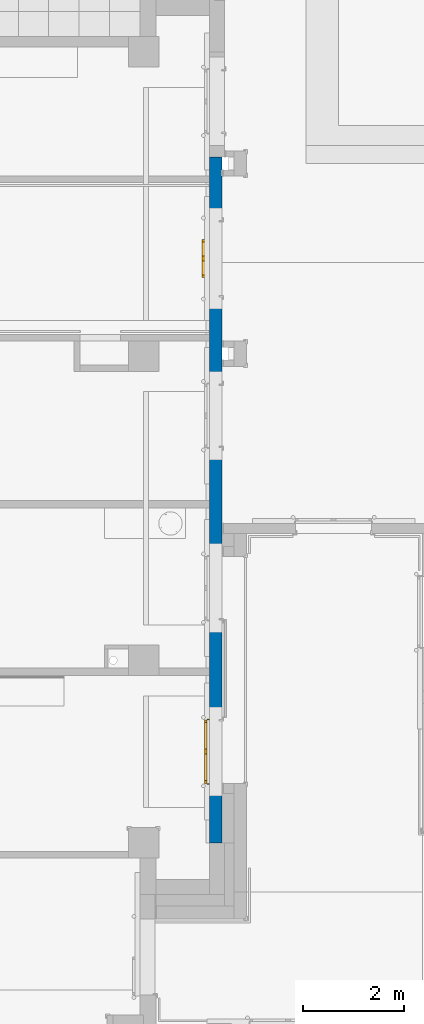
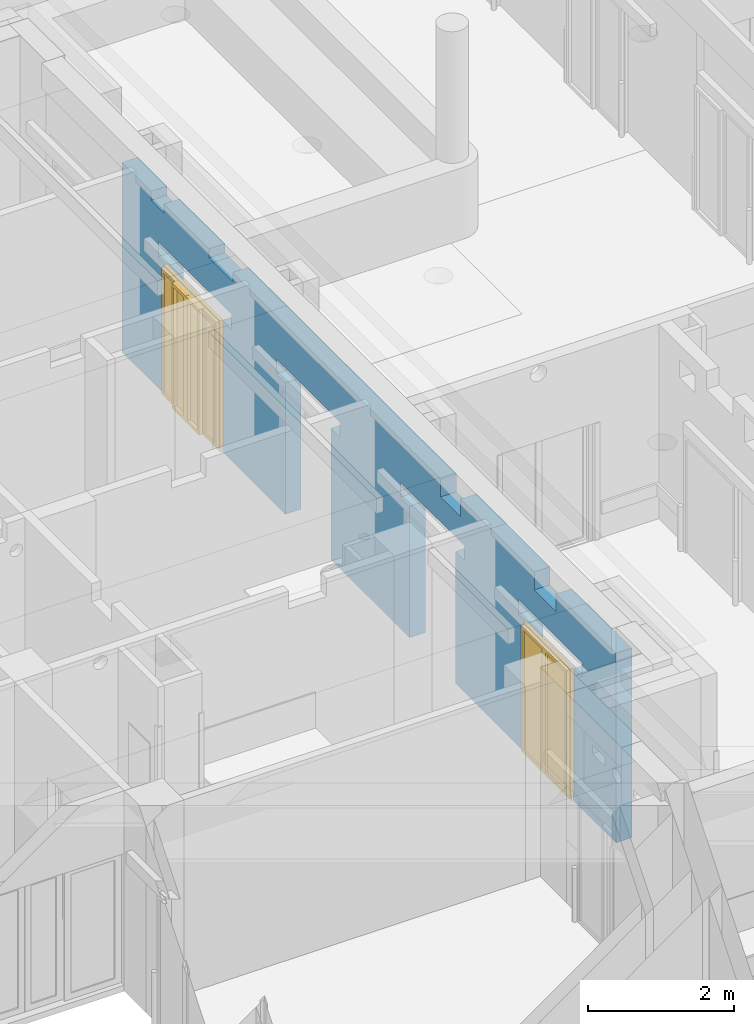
# One storey, part 87 of 140: 2 doors, 1 wall, 8 openings.
"""IFC4 building model written with IfcOpenShell, lengths in metres."""

from ifc_helpers import new_model, entity, si_unit, converted_unit, derived_unit, frame, origin, origin_with_axes, place, context, subcontext, project, spatial, polyline, outline, extrude, closed_shell, open_shell, faceted_brep, surface_model, source, transform, mapped, material, type_object, element, fill, save


model = new_model("IFC4")

# Units and contexts
model_context = context("Model", 3, precision=1e-05, world=origin())
body_context = subcontext(model_context, "Body", "Model", "MODEL_VIEW")
ifc_project = project(units=[si_unit("LENGTHUNIT", "METRE"), si_unit("AREAUNIT", "SQUARE_METRE"), si_unit("VOLUMEUNIT", "CUBIC_METRE"), si_unit("MASSUNIT", "GRAM", prefix="KILO"), converted_unit("PLANEANGLEUNIT", "DEGREE", entity("IfcPlaneAngleMeasure", 0.0174532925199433), si_unit("PLANEANGLEUNIT", "RADIAN"), dimensions=[0, 0, 0, 0, 0, 0, 0]), derived_unit("THERMALTRANSMITTANCEUNIT", [(si_unit("POWERUNIT", "WATT"), 1), (si_unit("THERMODYNAMICTEMPERATUREUNIT", "KELVIN"), -1), (si_unit("LENGTHUNIT", "METRE"), -2)]), derived_unit("VOLUMETRICFLOWRATEUNIT", [(si_unit("LENGTHUNIT", "METRE"), 3), (converted_unit("TIMEUNIT", "hour", entity("IfcTimeMeasure", 3600.0), si_unit("TIMEUNIT", "SECOND"), dimensions=[0, 0, 1, 0, 0, 0, 0]), -1), (si_unit("LENGTHUNIT", "METRE"), -1)])], contexts=[model_context])

# Site, building, storey
site_placement = place(None, origin())
site = spatial("IfcSite", under=ifc_project, at=site_placement, Name="3. ASŘ", CompositionType="ELEMENT")
building_placement = place(site_placement, origin())
building = spatial("IfcBuilding", under=site, at=building_placement, Name="Pavilon C", CompositionType="ELEMENT")
storey_placement = place(building_placement, origin())
storey = spatial("IfcBuildingStorey", under=building, at=storey_placement, Name="Půdorys 1.NP", CompositionType="ELEMENT", Elevation=0.0)

# Wall, openings, doors
ifc_material = material(Name="YTONG 250")
wall_placement = place(storey_placement, frame((51.25, 3.6, -0.1)))
wall = element("IfcWall", 1, at=wall_placement, inside=storey, material=ifc_material, Name="YTONG 250", context=body_context, shape_type="Brep", body=[
    faceted_brep([(0.25, 10.525, 2.449), (0.25, 12.525, 2.449), (0.0, 12.525, 2.449), (0.0, 10.525, 2.449), (0.0, 10.525, 2.2), (0.0, 12.525, 2.2), (0.25, 12.525, 2.2), (0.25, 10.525, 2.2), (0.25, 7.54999999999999, 2.449), (0.25, 9.29999999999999, 2.449), (0.0, 9.29999999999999, 2.449), (0.0, 7.54999999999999, 2.449), (0.0, 7.54999999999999, 2.2), (0.0, 9.29999999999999, 2.2), (0.25, 9.29999999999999, 2.2), (0.25, 7.54999999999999, 2.2), (0.25, 4.14999999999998, 2.449), (0.25, 5.89999999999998, 2.449), (0.0, 5.89999999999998, 2.449), (0.0, 4.14999999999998, 2.449), (0.0, 4.14999999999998, 2.2), (0.0, 5.89999999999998, 2.2), (0.25, 5.89999999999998, 2.2), (0.25, 4.14999999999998, 2.2), (0.25, 0.924999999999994, 2.449), (0.25, 2.67499999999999, 2.449), (0.0, 2.67499999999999, 2.449), (0.0, 0.924999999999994, 2.449), (0.0, 0.924999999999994, 2.2), (0.0, 2.67499999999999, 2.2), (0.25, 2.67499999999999, 2.2), (0.25, 0.924999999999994, 2.2), (0.25, 13.525, -2.27373675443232e-16), (0.25, -9.09494701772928e-16, -2.27373675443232e-16), (0.25, -9.09494701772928e-16, 3.17), (0.25, 13.525, 3.17), (0.0, -9.09494701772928e-16, -2.27373675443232e-16), (0.0, -9.09494701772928e-16, 3.17), (0.0, 13.525, -2.27373675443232e-16), (0.0, 13.525, 3.17)], [[[0, 1, 2, 3]], [[4, 5, 6, 7]], [[3, 4, 7, 0]], [[1, 6, 5, 2]], [[8, 9, 10, 11]], [[12, 13, 14, 15]], [[11, 12, 15, 8]], [[9, 14, 13, 10]], [[16, 17, 18, 19]], [[20, 21, 22, 23]], [[19, 20, 23, 16]], [[17, 22, 21, 18]], [[24, 25, 26, 27]], [[28, 29, 30, 31]], [[27, 28, 31, 24]], [[25, 30, 29, 26]], [[32, 33, 34, 35], [6, 1, 0, 7], [14, 9, 8, 15], [22, 17, 16, 23], [30, 25, 24, 31]], [[33, 36, 37, 34]], [[36, 38, 39, 37], [4, 3, 2, 5], [12, 11, 10, 13], [20, 19, 18, 21], [28, 27, 26, 29]], [[38, 32, 35, 39]], [[39, 35, 34, 37]], [[32, 38, 36, 33]]], orient=[[False], [False], [False], [False], [False], [False], [False], [False], [False], [False], [False], [False], [False], [False], [False], [False], [False, False, False, False, False], [False], [False, False, False, False, False], [False], [False], [False]]),
])
opening_1_placement = place(wall_placement, frame((0.25, 1.17499999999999, 0.0), z_axis=(-1.0, 0.0, 0.0), x_axis=(0.0, 0.0, 1.0)))
opening_1 = element("IfcOpeningElement", 2, at=opening_1_placement, cuts=wall, Name="Dveřní otvor", ObjectType="Opening", context=body_context, shape_type="SweptSolid", body=[
    extrude(outline(polyline([(0.0, 1.25), (2.2, 1.25), (2.2, 0.0), (0.0, 0.0), (0.0, 1.25)])), origin_with_axes(), (0.0, 0.0, 1.0), 0.25),
])
opening_2_placement = place(wall_placement, frame((0.25, 10.775, 0.0), z_axis=(-1.0, 0.0, 0.0), x_axis=(0.0, 0.0, 1.0)))
opening_2 = element("IfcOpeningElement", 3, at=opening_2_placement, cuts=wall, Name="Dveřní otvor", ObjectType="Opening", context=body_context, shape_type="SweptSolid", body=[
    extrude(outline(polyline([(0.0, 1.5), (2.2, 1.5), (2.2, 0.0), (0.0, 0.0), (0.0, 1.5)])), origin_with_axes(), (0.0, 0.0, 1.0), 0.25),
])
opening_3_placement = place(wall_placement, frame((0.25, 7.79999999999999, 0.0), z_axis=(-1.0, 0.0, 0.0), x_axis=(0.0, 0.0, 1.0)))
element("IfcOpeningElement", 4, at=opening_3_placement, cuts=wall, Name="Dveřní otvor", ObjectType="Opening", context=body_context, shape_type="SweptSolid", body=[
    extrude(outline(polyline([(0.0, 1.25), (2.2, 1.25), (2.2, 0.0), (0.0, 0.0), (0.0, 1.25)])), origin_with_axes(), (0.0, 0.0, 1.0), 0.25),
])
opening_4_placement = place(wall_placement, frame((0.25, 4.39999999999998, 0.0), z_axis=(-1.0, 0.0, 0.0), x_axis=(0.0, 0.0, 1.0)))
element("IfcOpeningElement", 5, at=opening_4_placement, cuts=wall, Name="Dveřní otvor", ObjectType="Opening", context=body_context, shape_type="SweptSolid", body=[
    extrude(outline(polyline([(0.0, 1.25), (2.2, 1.25), (2.2, 0.0), (0.0, 0.0), (0.0, 1.25)])), origin_with_axes(), (0.0, 0.0, 1.0), 0.25),
])
opening_5_placement = place(wall_placement, frame((0.25, 10.49, 3.02), z_axis=(-1.0, 0.0, 0.0), x_axis=(0.0, 0.0, 1.0)))
element("IfcOpeningElement", 6, at=opening_5_placement, cuts=wall, Name="ELE", ObjectType="Opening", context=body_context, shape_type="SweptSolid", body=[
    extrude(outline(polyline([(0.0, 0.65), (0.15, 0.65), (0.15, 0.0), (0.0, 0.0), (0.0, 0.65)])), origin_with_axes(), (0.0, 0.0, 1.0), 0.25),
])
opening_6_placement = place(wall_placement, frame((0.25, 12.375, 3.02), z_axis=(-1.0, 0.0, 0.0), x_axis=(0.0, 0.0, 1.0)))
element("IfcOpeningElement", 7, at=opening_6_placement, cuts=wall, Name="ELE", ObjectType="Opening", context=body_context, shape_type="SweptSolid", body=[
    extrude(outline(polyline([(0.0, 0.35), (0.15, 0.35), (0.15, 0.0), (0.0, 0.0), (0.0, 0.35)])), origin_with_axes(), (0.0, 0.0, 1.0), 0.25),
])
opening_7_placement = place(wall_placement, frame((0.25, 4.24999335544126, 2.87), z_axis=(-1.0, 0.0, 0.0), x_axis=(0.0, 0.0, 1.0)))
element("IfcOpeningElement", 8, at=opening_7_placement, cuts=wall, Name="VZT", ObjectType="Opening", context=body_context, shape_type="SweptSolid", body=[
    extrude(outline(polyline([(0.0, 0.549999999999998), (0.3, 0.549999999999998), (0.3, 0.0), (0.0, 0.0), (0.0, 0.549999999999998)])), origin_with_axes(), (0.0, 0.0, 1.0), 0.25),
])
opening_8_placement = place(wall_placement, frame((0.25, 1.63696848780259, 2.87), z_axis=(-1.0, 0.0, 0.0), x_axis=(0.0, 0.0, 1.0)))
element("IfcOpeningElement", 9, at=opening_8_placement, cuts=wall, Name="VZT", ObjectType="Opening", context=body_context, shape_type="SweptSolid", body=[
    extrude(outline(polyline([(0.0, 0.6), (0.3, 0.6), (0.3, 0.0), (0.0, 0.0), (0.0, 0.6)])), origin_with_axes(), (0.0, 0.0, 1.0), 0.25),
])
door_type_1 = type_object("IfcDoorType", Name="I.DH07", OperationType="NOTDEFINED", ParameterTakesPrecedence=False, PredefinedType="DOOR")
shared_shape_1 = source(origin_with_axes(), body_context, "Body", "SurfaceModel", [
    surface_model("IfcShellBasedSurfaceModel", [(0.0, 0.075, 0.0), (1.29, 0.075, 0.0), (1.29, 0.075, 0.1), (0.0, 0.075, 0.1)], [open_shell([[[0, 1, 2, 3]]], orient=[[False]])]),
    surface_model("IfcShellBasedSurfaceModel", [(0.0, 0.1, 2.22), (0.0, 0.1, 0.101), (0.02, 0.1, 0.101), (0.02, 0.1, 2.22), (0.0, 0.05, 0.101), (0.0, 0.0500000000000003, 2.22), (0.02, 0.0500000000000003, 2.22), (0.02, 0.05, 0.101)], [closed_shell([[[0, 1, 2, 3]], [[4, 5, 6, 7]], [[1, 0, 5, 4]], [[2, 1, 4, 7]], [[3, 2, 7, 6]], [[0, 3, 6, 5]]], orient=[[False], [False], [False], [False], [False], [False]])]),
    surface_model("IfcShellBasedSurfaceModel", [(1.27, 0.1, 2.22), (1.27, 0.1, 0.101), (1.29, 0.1, 0.101), (1.29, 0.1, 2.22), (1.27, 0.05, 0.101), (1.27, 0.0500000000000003, 2.22), (1.29, 0.0500000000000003, 2.22), (1.29, 0.05, 0.101)], [closed_shell([[[0, 1, 2, 3]], [[4, 5, 6, 7]], [[1, 0, 5, 4]], [[2, 1, 4, 7]], [[3, 2, 7, 6]], [[0, 3, 6, 5]]], orient=[[False], [False], [False], [False], [False], [False]])]),
    surface_model("IfcShellBasedSurfaceModel", [(0.02, 0.1, 2.22), (0.02, 0.1, 2.2), (1.27, 0.1, 2.2), (1.27, 0.1, 2.22), (0.02, 0.0500000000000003, 2.2), (0.02, 0.0500000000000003, 2.22), (1.27, 0.0500000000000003, 2.22), (1.27, 0.0500000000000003, 2.2)], [closed_shell([[[0, 1, 2, 3]], [[4, 5, 6, 7]], [[1, 0, 5, 4]], [[2, 1, 4, 7]], [[3, 2, 7, 6]], [[0, 3, 6, 5]]], orient=[[False], [False], [False], [False], [False], [False]])]),
    surface_model("IfcShellBasedSurfaceModel", [(0.02, 0.0500000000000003, 2.2), (0.02, 0.05, 0.101), (0.07, 0.05, 0.101), (0.07, 0.0500000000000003, 2.2), (0.02, 0.0, 0.101), (0.02, 2.55795384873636e-16, 2.2), (0.07, 2.55795384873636e-16, 2.2), (0.07, 0.0, 0.101)], [closed_shell([[[0, 1, 2, 3]], [[4, 5, 6, 7]], [[1, 0, 5, 4]], [[2, 1, 4, 7]], [[3, 2, 7, 6]], [[0, 3, 6, 5]]], orient=[[False], [False], [False], [False], [False], [False]])]),
    surface_model("IfcShellBasedSurfaceModel", [(0.5945, 0.0500000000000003, 2.2), (0.5945, 0.05, 0.101), (0.6445, 0.05, 0.101), (0.6445, 0.0500000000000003, 2.2), (0.5945, 0.0, 0.101), (0.5945, 2.55795384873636e-16, 2.2), (0.6445, 2.55795384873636e-16, 2.2), (0.6445, 0.0, 0.101)], [closed_shell([[[0, 1, 2, 3]], [[4, 5, 6, 7]], [[1, 0, 5, 4]], [[2, 1, 4, 7]], [[3, 2, 7, 6]], [[0, 3, 6, 5]]], orient=[[False], [False], [False], [False], [False], [False]])]),
    surface_model("IfcShellBasedSurfaceModel", [(0.07, 0.05, 0.151), (0.07, 0.05, 0.101), (0.5945, 0.05, 0.101), (0.5945, 0.05, 0.151), (0.07, 0.0, 0.101), (0.07, 7.105427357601e-18, 0.151), (0.5945, 7.105427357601e-18, 0.151), (0.5945, 0.0, 0.101)], [closed_shell([[[0, 1, 2, 3]], [[4, 5, 6, 7]], [[1, 0, 5, 4]], [[2, 1, 4, 7]], [[3, 2, 7, 6]], [[0, 3, 6, 5]]], orient=[[False], [False], [False], [False], [False], [False]])]),
    surface_model("IfcShellBasedSurfaceModel", [(0.07, 0.0500000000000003, 2.2), (0.07, 0.0500000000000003, 2.15), (0.5945, 0.0500000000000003, 2.15), (0.5945, 0.0500000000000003, 2.2), (0.07, 2.55795384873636e-16, 2.15), (0.07, 2.62900812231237e-16, 2.2), (0.5945, 2.62900812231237e-16, 2.2), (0.5945, 2.55795384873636e-16, 2.15)], [closed_shell([[[0, 1, 2, 3]], [[4, 5, 6, 7]], [[1, 0, 5, 4]], [[2, 1, 4, 7]], [[3, 2, 7, 6]], [[0, 3, 6, 5]]], orient=[[False], [False], [False], [False], [False], [False]])]),
    surface_model("IfcShellBasedSurfaceModel", [(0.6455, 0.0500000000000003, 2.2), (0.6455, 0.05, 0.101), (0.6955, 0.05, 0.101), (0.6955, 0.0500000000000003, 2.2), (0.6455, 0.0, 0.101), (0.6455, 2.55795384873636e-16, 2.2), (0.6955, 2.55795384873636e-16, 2.2), (0.6955, 0.0, 0.101)], [closed_shell([[[0, 1, 2, 3]], [[4, 5, 6, 7]], [[1, 0, 5, 4]], [[2, 1, 4, 7]], [[3, 2, 7, 6]], [[0, 3, 6, 5]]], orient=[[False], [False], [False], [False], [False], [False]])]),
    surface_model("IfcShellBasedSurfaceModel", [(1.22, 0.0500000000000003, 2.2), (1.22, 0.05, 0.101), (1.27, 0.05, 0.101), (1.27, 0.0500000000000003, 2.2), (1.22, 0.0, 0.101), (1.22, 2.55795384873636e-16, 2.2), (1.27, 2.55795384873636e-16, 2.2), (1.27, 0.0, 0.101)], [closed_shell([[[0, 1, 2, 3]], [[4, 5, 6, 7]], [[1, 0, 5, 4]], [[2, 1, 4, 7]], [[3, 2, 7, 6]], [[0, 3, 6, 5]]], orient=[[False], [False], [False], [False], [False], [False]])]),
    surface_model("IfcShellBasedSurfaceModel", [(0.6955, 0.05, 0.151), (0.6955, 0.05, 0.101), (1.22, 0.05, 0.101), (1.22, 0.05, 0.151), (0.6955, 0.0, 0.101), (0.6955, 7.105427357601e-18, 0.151), (1.22, 7.105427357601e-18, 0.151), (1.22, 0.0, 0.101)], [closed_shell([[[0, 1, 2, 3]], [[4, 5, 6, 7]], [[1, 0, 5, 4]], [[2, 1, 4, 7]], [[3, 2, 7, 6]], [[0, 3, 6, 5]]], orient=[[False], [False], [False], [False], [False], [False]])]),
    surface_model("IfcShellBasedSurfaceModel", [(0.6955, 0.0500000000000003, 2.2), (0.6955, 0.0500000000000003, 2.15), (1.22, 0.0500000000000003, 2.15), (1.22, 0.0500000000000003, 2.2), (0.6955, 2.55795384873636e-16, 2.15), (0.6955, 2.62900812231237e-16, 2.2), (1.22, 2.62900812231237e-16, 2.2), (1.22, 2.55795384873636e-16, 2.15)], [closed_shell([[[0, 1, 2, 3]], [[4, 5, 6, 7]], [[1, 0, 5, 4]], [[2, 1, 4, 7]], [[3, 2, 7, 6]], [[0, 3, 6, 5]]], orient=[[False], [False], [False], [False], [False], [False]])]),
    surface_model("IfcShellBasedSurfaceModel", [(0.07, 0.025, 0.151), (0.5945, 0.025, 0.151), (0.5945, 0.0250000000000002, 2.15), (0.07, 0.0250000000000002, 2.15)], [open_shell([[[0, 1, 2, 3]]], orient=[[False]])]),
    surface_model("IfcShellBasedSurfaceModel", [(0.6955, 0.025, 0.151), (1.22, 0.025, 0.151), (1.22, 0.0250000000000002, 2.15), (0.6955, 0.0250000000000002, 2.15)], [open_shell([[[0, 1, 2, 3]]], orient=[[False]])]),
])
door_1_placement = place(opening_1_placement, frame((0.0, -0.0200000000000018, 0.350000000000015), z_axis=(1.0, 0.0, 0.0), x_axis=(0.0, 1.0, -2.44929359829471e-16)))
door_1 = element("IfcDoor", 10, at=door_1_placement, inside=storey, type_object=door_type_1, Name="I.DH07", OverallHeight=2.24, OverallWidth=1.33, context=body_context, shape_type="MappedRepresentation", body=[
    mapped(shared_shape_1, transform((0.0, 0.0, 0.0), x_axis=(1.0, 0.0, 0.0), y_axis=(0.0, -1.0, 0.0), z_axis=(0.0, 0.0, 1.0), scale=1.0)),
])
fill(opening_1, door_1)
door_type_2 = type_object("IfcDoorType", Name="I.DH10", OperationType="NOTDEFINED", ParameterTakesPrecedence=False, PredefinedType="DOOR")
shared_shape_2 = source(origin_with_axes(), body_context, "Body", "SurfaceModel", [
    surface_model("IfcShellBasedSurfaceModel", [(0.0, 0.025, 0.0), (1.54, 0.025, 0.0), (1.54, 0.025, 0.1), (0.0, 0.025, 0.1)], [open_shell([[[0, 1, 2, 3]]], orient=[[False]])]),
    surface_model("IfcShellBasedSurfaceModel", [(0.0, 0.0500000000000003, 2.22), (0.0, 0.05, 0.101), (0.02, 0.05, 0.101), (0.02, 0.0500000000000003, 2.22), (0.0, 0.0, 0.101), (0.0, 2.62900812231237e-16, 2.22), (0.02, 2.62900812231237e-16, 2.22), (0.02, 0.0, 0.101)], [closed_shell([[[0, 1, 2, 3]], [[4, 5, 6, 7]], [[1, 0, 5, 4]], [[2, 1, 4, 7]], [[3, 2, 7, 6]], [[0, 3, 6, 5]]], orient=[[False], [False], [False], [False], [False], [False]])]),
    surface_model("IfcShellBasedSurfaceModel", [(1.52, 0.0500000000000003, 2.22), (1.52, 0.05, 0.101), (1.54, 0.05, 0.101), (1.54, 0.0500000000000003, 2.22), (1.52, 0.0, 0.101), (1.52, 2.62900812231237e-16, 2.22), (1.54, 2.62900812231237e-16, 2.22), (1.54, 0.0, 0.101)], [closed_shell([[[0, 1, 2, 3]], [[4, 5, 6, 7]], [[1, 0, 5, 4]], [[2, 1, 4, 7]], [[3, 2, 7, 6]], [[0, 3, 6, 5]]], orient=[[False], [False], [False], [False], [False], [False]])]),
    surface_model("IfcShellBasedSurfaceModel", [(0.02, 0.0500000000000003, 2.22), (0.02, 0.0500000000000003, 2.2), (1.52, 0.0500000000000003, 2.2), (1.52, 0.0500000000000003, 2.22), (0.02, 2.55795384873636e-16, 2.2), (0.02, 2.55795384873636e-16, 2.22), (1.52, 2.55795384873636e-16, 2.22), (1.52, 2.55795384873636e-16, 2.2)], [closed_shell([[[0, 1, 2, 3]], [[4, 5, 6, 7]], [[1, 0, 5, 4]], [[2, 1, 4, 7]], [[3, 2, 7, 6]], [[0, 3, 6, 5]]], orient=[[False], [False], [False], [False], [False], [False]])]),
    surface_model("IfcShellBasedSurfaceModel", [(0.7705, 0.15, 2.2), (0.7705, 0.15, 0.101), (0.8205, 0.15, 0.101), (0.8205, 0.15, 2.2), (0.7705, 0.05, 0.101), (0.7705, 0.0500000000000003, 2.2), (0.8205, 0.0500000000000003, 2.2), (0.8205, 0.05, 0.101)], [closed_shell([[[0, 1, 2, 3]], [[4, 5, 6, 7]], [[1, 0, 5, 4]], [[2, 1, 4, 7]], [[3, 2, 7, 6]], [[0, 3, 6, 5]]], orient=[[False], [False], [False], [False], [False], [False]])]),
    surface_model("IfcShellBasedSurfaceModel", [(1.09475, 0.15, 2.2), (1.09475, 0.15, 0.101), (1.14475, 0.15, 0.101), (1.14475, 0.15, 2.2), (1.09475, 0.05, 0.101), (1.09475, 0.0500000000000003, 2.2), (1.14475, 0.0500000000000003, 2.2), (1.14475, 0.05, 0.101)], [closed_shell([[[0, 1, 2, 3]], [[4, 5, 6, 7]], [[1, 0, 5, 4]], [[2, 1, 4, 7]], [[3, 2, 7, 6]], [[0, 3, 6, 5]]], orient=[[False], [False], [False], [False], [False], [False]])]),
    surface_model("IfcShellBasedSurfaceModel", [(0.8205, 0.15, 0.151), (0.8205, 0.15, 0.101), (1.09475, 0.15, 0.101), (1.09475, 0.15, 0.151), (0.8205, 0.05, 0.101), (0.8205, 0.05, 0.151), (1.09475, 0.05, 0.151), (1.09475, 0.05, 0.101)], [closed_shell([[[0, 1, 2, 3]], [[4, 5, 6, 7]], [[1, 0, 5, 4]], [[2, 1, 4, 7]], [[3, 2, 7, 6]], [[0, 3, 6, 5]]], orient=[[False], [False], [False], [False], [False], [False]])]),
    surface_model("IfcShellBasedSurfaceModel", [(0.8205, 0.15, 2.2), (0.8205, 0.15, 2.15), (1.09475, 0.15, 2.15), (1.09475, 0.15, 2.2), (0.8205, 0.0500000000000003, 2.15), (0.8205, 0.0500000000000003, 2.2), (1.09475, 0.0500000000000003, 2.2), (1.09475, 0.0500000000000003, 2.15)], [closed_shell([[[0, 1, 2, 3]], [[4, 5, 6, 7]], [[1, 0, 5, 4]], [[2, 1, 4, 7]], [[3, 2, 7, 6]], [[0, 3, 6, 5]]], orient=[[False], [False], [False], [False], [False], [False]])]),
    surface_model("IfcShellBasedSurfaceModel", [(1.14575, 0.1, 2.2), (1.14575, 0.1, 0.101), (1.19575, 0.1, 0.101), (1.19575, 0.1, 2.2), (1.14575, 0.05, 0.101), (1.14575, 0.0500000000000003, 2.2), (1.19575, 0.0500000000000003, 2.2), (1.19575, 0.05, 0.101)], [closed_shell([[[0, 1, 2, 3]], [[4, 5, 6, 7]], [[1, 0, 5, 4]], [[2, 1, 4, 7]], [[3, 2, 7, 6]], [[0, 3, 6, 5]]], orient=[[False], [False], [False], [False], [False], [False]])]),
    surface_model("IfcShellBasedSurfaceModel", [(1.47, 0.1, 2.2), (1.47, 0.1, 0.101), (1.52, 0.1, 0.101), (1.52, 0.1, 2.2), (1.47, 0.05, 0.101), (1.47, 0.0500000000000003, 2.2), (1.52, 0.0500000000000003, 2.2), (1.52, 0.05, 0.101)], [closed_shell([[[0, 1, 2, 3]], [[4, 5, 6, 7]], [[1, 0, 5, 4]], [[2, 1, 4, 7]], [[3, 2, 7, 6]], [[0, 3, 6, 5]]], orient=[[False], [False], [False], [False], [False], [False]])]),
    surface_model("IfcShellBasedSurfaceModel", [(1.19575, 0.1, 0.151), (1.19575, 0.1, 0.101), (1.47, 0.1, 0.101), (1.47, 0.1, 0.151), (1.19575, 0.05, 0.101), (1.19575, 0.05, 0.151), (1.47, 0.05, 0.151), (1.47, 0.05, 0.101)], [closed_shell([[[0, 1, 2, 3]], [[4, 5, 6, 7]], [[1, 0, 5, 4]], [[2, 1, 4, 7]], [[3, 2, 7, 6]], [[0, 3, 6, 5]]], orient=[[False], [False], [False], [False], [False], [False]])]),
    surface_model("IfcShellBasedSurfaceModel", [(1.19575, 0.1, 2.2), (1.19575, 0.1, 2.15), (1.47, 0.1, 2.15), (1.47, 0.1, 2.2), (1.19575, 0.0500000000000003, 2.15), (1.19575, 0.0500000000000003, 2.2), (1.47, 0.0500000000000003, 2.2), (1.47, 0.0500000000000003, 2.15)], [closed_shell([[[0, 1, 2, 3]], [[4, 5, 6, 7]], [[1, 0, 5, 4]], [[2, 1, 4, 7]], [[3, 2, 7, 6]], [[0, 3, 6, 5]]], orient=[[False], [False], [False], [False], [False], [False]])]),
    surface_model("IfcShellBasedSurfaceModel", [(0.02, 0.1, 2.2), (0.02, 0.1, 0.101), (0.07, 0.1, 0.101), (0.07, 0.1, 2.2), (0.02, 0.05, 0.101), (0.02, 0.0500000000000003, 2.2), (0.07, 0.0500000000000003, 2.2), (0.07, 0.05, 0.101)], [closed_shell([[[0, 1, 2, 3]], [[4, 5, 6, 7]], [[1, 0, 5, 4]], [[2, 1, 4, 7]], [[3, 2, 7, 6]], [[0, 3, 6, 5]]], orient=[[False], [False], [False], [False], [False], [False]])]),
    surface_model("IfcShellBasedSurfaceModel", [(0.34425, 0.1, 2.2), (0.34425, 0.1, 0.101), (0.39425, 0.1, 0.101), (0.39425, 0.1, 2.2), (0.34425, 0.05, 0.101), (0.34425, 0.0500000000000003, 2.2), (0.39425, 0.0500000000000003, 2.2), (0.39425, 0.05, 0.101)], [closed_shell([[[0, 1, 2, 3]], [[4, 5, 6, 7]], [[1, 0, 5, 4]], [[2, 1, 4, 7]], [[3, 2, 7, 6]], [[0, 3, 6, 5]]], orient=[[False], [False], [False], [False], [False], [False]])]),
    surface_model("IfcShellBasedSurfaceModel", [(0.07, 0.1, 0.151), (0.07, 0.1, 0.101), (0.34425, 0.1, 0.101), (0.34425, 0.1, 0.151), (0.07, 0.05, 0.101), (0.07, 0.05, 0.151), (0.34425, 0.05, 0.151), (0.34425, 0.05, 0.101)], [closed_shell([[[0, 1, 2, 3]], [[4, 5, 6, 7]], [[1, 0, 5, 4]], [[2, 1, 4, 7]], [[3, 2, 7, 6]], [[0, 3, 6, 5]]], orient=[[False], [False], [False], [False], [False], [False]])]),
    surface_model("IfcShellBasedSurfaceModel", [(0.07, 0.1, 2.2), (0.07, 0.1, 2.15), (0.34425, 0.1, 2.15), (0.34425, 0.1, 2.2), (0.07, 0.0500000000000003, 2.15), (0.07, 0.0500000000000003, 2.2), (0.34425, 0.0500000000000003, 2.2), (0.34425, 0.0500000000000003, 2.15)], [closed_shell([[[0, 1, 2, 3]], [[4, 5, 6, 7]], [[1, 0, 5, 4]], [[2, 1, 4, 7]], [[3, 2, 7, 6]], [[0, 3, 6, 5]]], orient=[[False], [False], [False], [False], [False], [False]])]),
    surface_model("IfcShellBasedSurfaceModel", [(0.39525, 0.15, 2.2), (0.39525, 0.15, 0.101), (0.44525, 0.15, 0.101), (0.44525, 0.15, 2.2), (0.39525, 0.05, 0.101), (0.39525, 0.0500000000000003, 2.2), (0.44525, 0.0500000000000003, 2.2), (0.44525, 0.05, 0.101)], [closed_shell([[[0, 1, 2, 3]], [[4, 5, 6, 7]], [[1, 0, 5, 4]], [[2, 1, 4, 7]], [[3, 2, 7, 6]], [[0, 3, 6, 5]]], orient=[[False], [False], [False], [False], [False], [False]])]),
    surface_model("IfcShellBasedSurfaceModel", [(0.7195, 0.15, 2.2), (0.7195, 0.15, 0.101), (0.7695, 0.15, 0.101), (0.7695, 0.15, 2.2), (0.7195, 0.05, 0.101), (0.7195, 0.0500000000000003, 2.2), (0.7695, 0.0500000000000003, 2.2), (0.7695, 0.05, 0.101)], [closed_shell([[[0, 1, 2, 3]], [[4, 5, 6, 7]], [[1, 0, 5, 4]], [[2, 1, 4, 7]], [[3, 2, 7, 6]], [[0, 3, 6, 5]]], orient=[[False], [False], [False], [False], [False], [False]])]),
    surface_model("IfcShellBasedSurfaceModel", [(0.44525, 0.15, 0.151), (0.44525, 0.15, 0.101), (0.7195, 0.15, 0.101), (0.7195, 0.15, 0.151), (0.44525, 0.05, 0.101), (0.44525, 0.05, 0.151), (0.7195, 0.05, 0.151), (0.7195, 0.05, 0.101)], [closed_shell([[[0, 1, 2, 3]], [[4, 5, 6, 7]], [[1, 0, 5, 4]], [[2, 1, 4, 7]], [[3, 2, 7, 6]], [[0, 3, 6, 5]]], orient=[[False], [False], [False], [False], [False], [False]])]),
    surface_model("IfcShellBasedSurfaceModel", [(0.44525, 0.15, 2.2), (0.44525, 0.15, 2.15), (0.7195, 0.15, 2.15), (0.7195, 0.15, 2.2), (0.44525, 0.0500000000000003, 2.15), (0.44525, 0.0500000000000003, 2.2), (0.7195, 0.0500000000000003, 2.2), (0.7195, 0.0500000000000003, 2.15)], [closed_shell([[[0, 1, 2, 3]], [[4, 5, 6, 7]], [[1, 0, 5, 4]], [[2, 1, 4, 7]], [[3, 2, 7, 6]], [[0, 3, 6, 5]]], orient=[[False], [False], [False], [False], [False], [False]])]),
    surface_model("IfcShellBasedSurfaceModel", [(1.19575, 0.075, 0.151), (1.47, 0.075, 0.151), (1.47, 0.0750000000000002, 2.15), (1.19575, 0.0750000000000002, 2.15)], [open_shell([[[0, 1, 2, 3]]], orient=[[False]])]),
    surface_model("IfcShellBasedSurfaceModel", [(0.07, 0.075, 0.151), (0.34425, 0.075, 0.151), (0.34425, 0.0750000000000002, 2.15), (0.07, 0.0750000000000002, 2.15)], [open_shell([[[0, 1, 2, 3]]], orient=[[False]])]),
    surface_model("IfcShellBasedSurfaceModel", [(0.8205, 0.1, 0.151), (1.09475, 0.1, 0.151), (1.09475, 0.1, 2.15), (0.8205, 0.1, 2.15)], [open_shell([[[0, 1, 2, 3]]], orient=[[False]])]),
    surface_model("IfcShellBasedSurfaceModel", [(0.44525, 0.1, 0.151), (0.7195, 0.1, 0.151), (0.7195, 0.1, 2.15), (0.44525, 0.1, 2.15)], [open_shell([[[0, 1, 2, 3]]], orient=[[False]])]),
])
door_2_placement = place(opening_2_placement, frame((0.0, 1.52, 0.250000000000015), z_axis=(1.0, 0.0, 0.0), x_axis=(0.0, -1.0, 1.22464679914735e-16)))
door_2 = element("IfcDoor", 11, at=door_2_placement, inside=storey, type_object=door_type_2, Name="I.DH10", OverallHeight=2.24, OverallWidth=1.58, context=body_context, shape_type="MappedRepresentation", body=[
    mapped(shared_shape_2, transform((0.0, 0.0, 0.0), x_axis=(1.0, 0.0, 0.0), y_axis=(0.0, -1.0, 0.0), z_axis=(0.0, 0.0, 1.0), scale=1.0)),
])
fill(opening_2, door_2)

save(model, "model.ifc")
